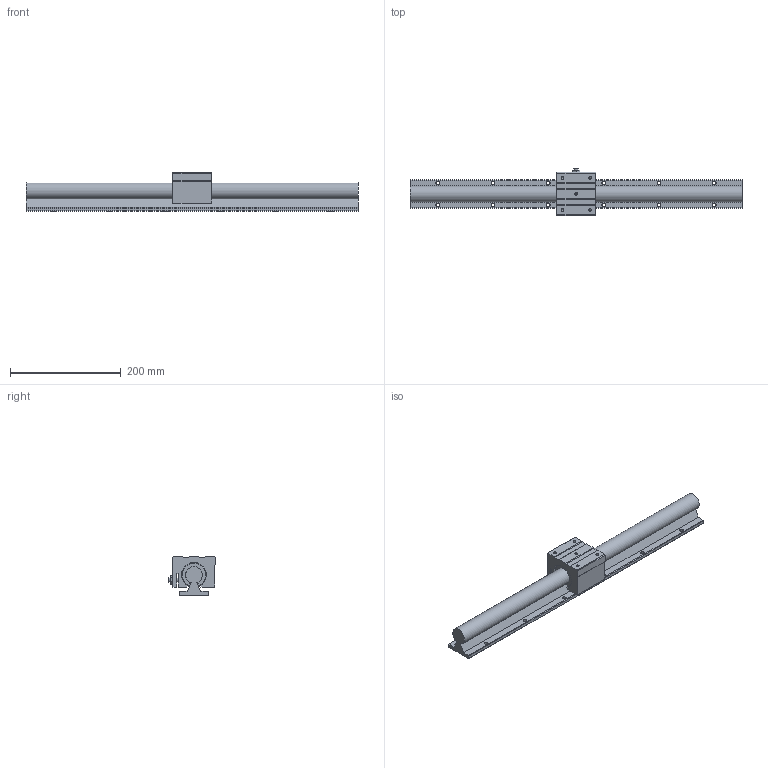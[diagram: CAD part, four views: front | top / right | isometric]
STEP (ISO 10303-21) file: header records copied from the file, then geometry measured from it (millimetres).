
FILE_DESCRIPTION((''),'2;1');
FILE_NAME('D:\製品 (図面)\カタログ用3D\リニアガイド関連\STEP形式\GTA(W)\GTAW30.stp','2010-06-08T09:18:35',('Tsuchiya'),(''),'Autodesk Inventor 10','Autodesk Inventor 10','');
FILE_SCHEMA(('AUTOMOTIVE_DESIGN { 1 0 10303 214 1 1 1 1 }'));
Length unit declared in the file: millimetre
Products named in the file (3): GTAW30; GTAW301; GTAW302
Assembly tree (2 placements, depth 2):
  GTAW30
    GTAW301
    GTAW302
Bounding box: 600 x 85 x 70 mm (x, y, z)
Volume: 1017877.6 mm3; surface area: 170379.2 mm2
Topology: 2 solids, 2 shells, 203 faces, 538 edges, 350 vertices
Faces by surface type: plane 116, cylinder 48, cone 21, bspline 10, torus 8
Full cylindrical faces by diameter (mm): 6.5 x12, 8 x2, 10 x6, 10.4 x6
Entity records: 5949 total; most frequent: CARTESIAN_POINT 1324, ORIENTED_EDGE 918, DIRECTION 906, EDGE_CURVE 459, AXIS2_PLACEMENT_3D 325, VERTEX_POINT 321, EDGE_LOOP 294, VECTOR 256
